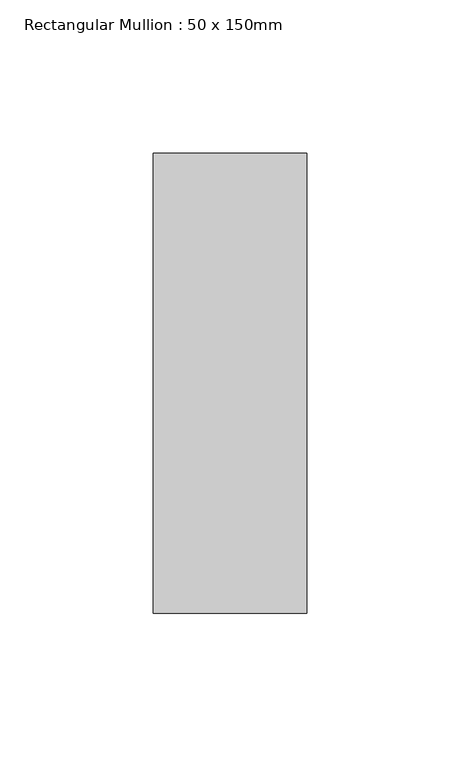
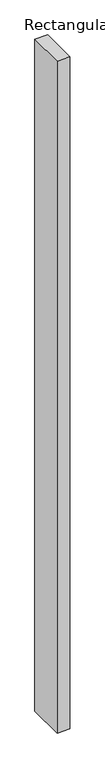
"""IFC4 building model written with IfcOpenShell, lengths in millimetres: member geometry, Rectangular Mullion : 50 x 150mm."""

from ifc_helpers import new_model, si_unit, frame, origin, place, context, project, spatial, polyline, outline, extrude, source, transform, mapped, element, save


def rectangular_mullion_50_x_150mm_fb6851b2(model_context):
    return source(origin(), model_context, "Body", "SweptSolid", [
        extrude(outline(polyline([(0.0, 75.0), (0.0, -75.0), (-50.0, -75.0), (-50.0, 75.0), (0.0, 75.0)])), frame((0.0, 0.0, -2775.0), z_axis=(0.0, 0.0, 1.0), x_axis=(1.0, 0.0, 0.0)), (0.0, 0.0, 1.0), 2775.0),
    ])


if __name__ == "__main__":
    model = new_model("IFC4")
    model_context = context("Model", 3, world=origin())
    ifc_project = project(units=[si_unit("LENGTHUNIT", "METRE", prefix="MILLI")], contexts=[model_context])
    site = spatial("IfcSite", under=ifc_project)
    building = spatial("IfcBuilding", under=site)
    placement = place(None, origin())
    rectangular_mullion_50_x_150mm_shape = rectangular_mullion_50_x_150mm_fb6851b2(model_context)
    element("IfcMember", 1, ObjectType="Rectangular Mullion : 50 x 150mm", at=placement, inside=building, context=model_context, shape_type="MappedRepresentation", body=[
        mapped(rectangular_mullion_50_x_150mm_shape, transform((0.0, 0.0, 0.0), x_axis=(1.0, 0.0, 0.0), y_axis=(0.0, 1.0, 0.0), z_axis=(0.0, 0.0, 1.0))),
    ])
    save(model, "model.ifc")
